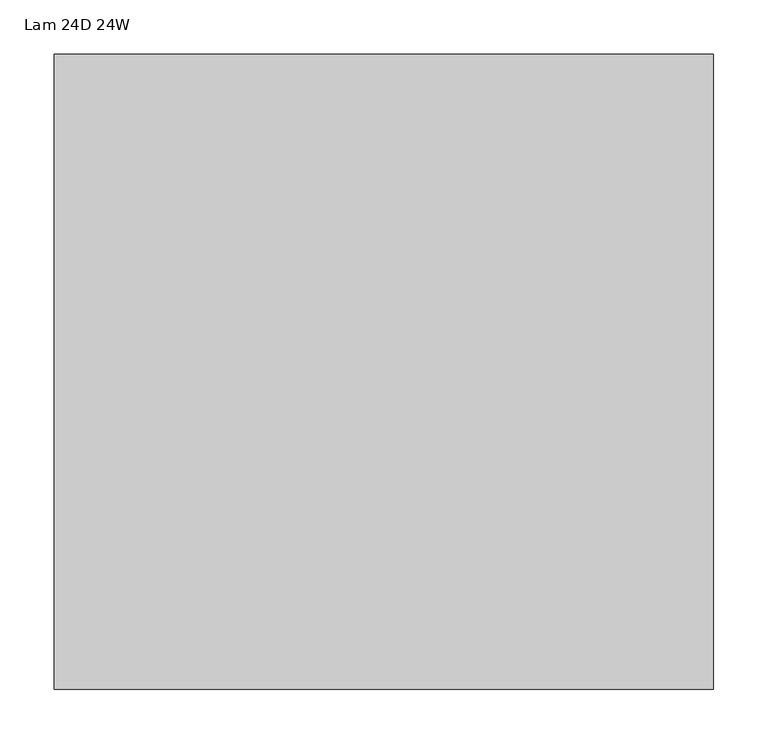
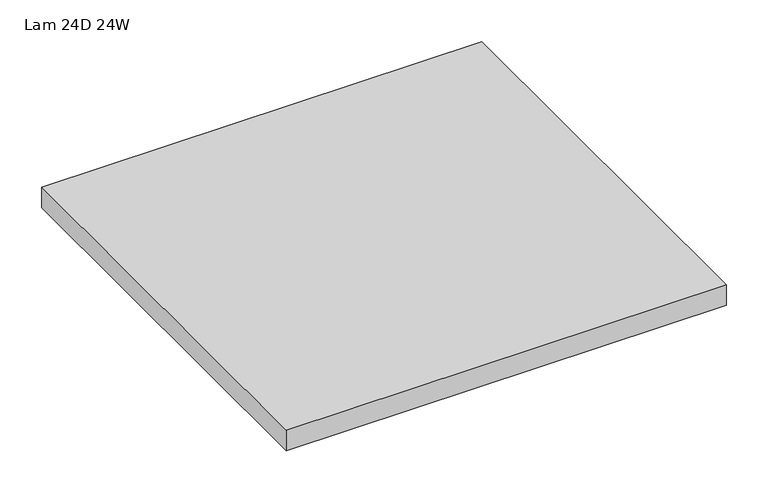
"""IFC4 building model written with IfcOpenShell, lengths in millimetres: furniture geometry, HermanMiller_Ethospace_EWS10_F_Sq-EdgeRectangularSurface_FrameAttached : Lam 24D 24W."""

from ifc_helpers import new_model, si_unit, frame, origin, place, context, project, spatial, polyline, outline, extrude, source, transform, mapped, element, save


def lam_24d_24w_e9b59cf5(model_context):
    return source(origin(), model_context, "Body", "SweptSolid", [
        extrude(outline(polyline([(143.9275996, 174.6914812), (-462.6244004, 174.6914812), (-462.6244004, 758.8914812), (143.9275996, 758.8914812), (143.9275996, 174.6914812)])), frame((0.0, 0.0, 706.7296), z_axis=(0.0, 0.0, 1.0), x_axis=(1.0, 0.0, 0.0)), (0.0, 0.0, 1.0), 29.8704),
    ])


if __name__ == "__main__":
    model = new_model("IFC4")
    model_context = context("Model", 3, world=origin())
    ifc_project = project(units=[si_unit("LENGTHUNIT", "METRE", prefix="MILLI")], contexts=[model_context])
    site = spatial("IfcSite", under=ifc_project)
    building = spatial("IfcBuilding", under=site)
    placement = place(None, origin())
    lam_24d_24w_shape = lam_24d_24w_e9b59cf5(model_context)
    element("IfcFurniture", 1, ObjectType="HermanMiller_Ethospace_EWS10_F_Sq-EdgeRectangularSurface_FrameAttached : Lam 24D 24W", at=placement, inside=building, context=model_context, shape_type="MappedRepresentation", body=[
        mapped(lam_24d_24w_shape, transform((0.0, 0.0, 0.0), x_axis=(1.0, 0.0, 0.0), y_axis=(0.0, 1.0, 0.0), z_axis=(0.0, 0.0, 1.0))),
    ])
    save(model, "model.ifc")
